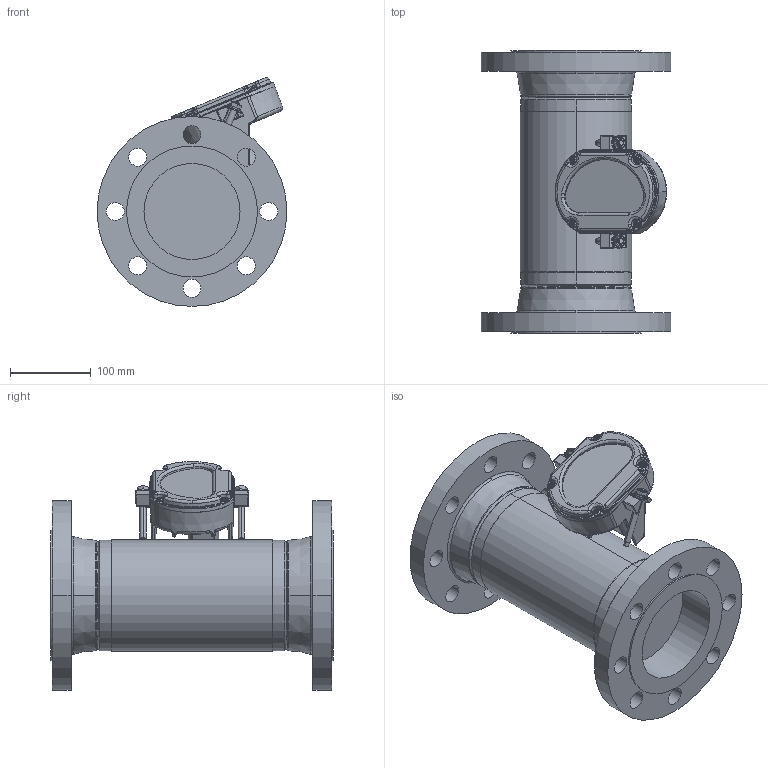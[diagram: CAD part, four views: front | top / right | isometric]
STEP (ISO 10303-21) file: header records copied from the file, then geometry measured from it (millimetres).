
FILE_DESCRIPTION (( 'STEP AP203' ), '1' );
FILE_NAME ('3809G-A-16-J-2-A-0.STEP', '2022-07-11T17:07:14', ( '' ), ( '' ), 'SwSTEP 2.0', 'SolidWorks 2020', '' );
FILE_SCHEMA (( 'CONFIG_CONTROL_DESIGN' ));
Length unit declared in the file: inch
Products named in the file (1): 3809G-A-16-J-2-A-0
Bounding box: 235 x 350 x 283.25 mm (x, y, z)
Volume: 5395047.5 mm3; surface area: 679087.6 mm2
Topology: 18 solids, 18 shells, 1526 faces, 3755 edges, 2245 vertices
Faces by surface type: cylinder 594, bspline 489, plane 213, cone 206, torus 24
Entity records: 100268 total; most frequent: CARTESIAN_POINT 67508, ORIENTED_EDGE 7398, DIRECTION 6226, EDGE_CURVE 3699, AXIS2_PLACEMENT_3D 2537, VERTEX_POINT 2245, EDGE_LOOP 1624, FACE_OUTER_BOUND 1526
